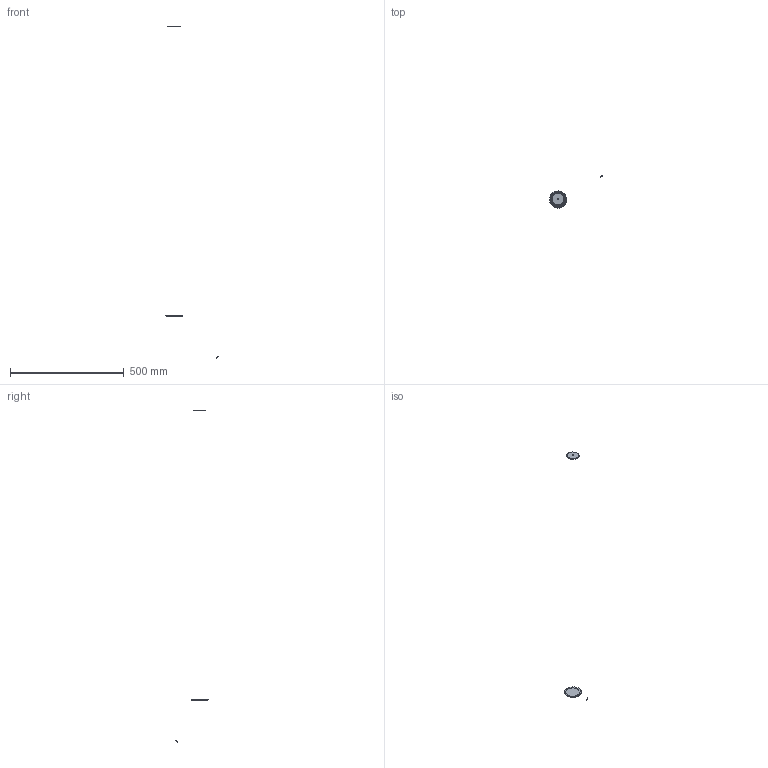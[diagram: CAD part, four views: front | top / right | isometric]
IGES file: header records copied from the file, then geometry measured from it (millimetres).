
Start section: SolidWorks IGES file using analytic representation for surfaces
Global section: file name: X:\PRODUKT\Modele 3D_WWW\_KOLEKCJE WWW\NESS\6768\NESS-6768.IGS; native system: SolidWorks 2021; preprocessor: SolidWorks 2021; author: gabriela.tworek; date: 221014.105750; units: millimetre
Bounding box: 233.53 x 143.02 x 1461.97 mm (x, y, z)
Surface area: 36470.6 mm2 (no closed solid volume)
Topology: 0 solids, 0 shells, 350 faces, 948 edges, 1116 vertices
Faces by surface type: revolution 312, bspline 38
